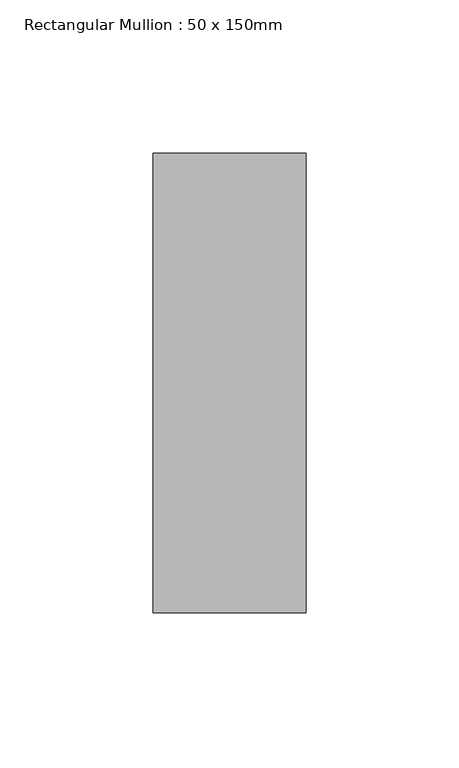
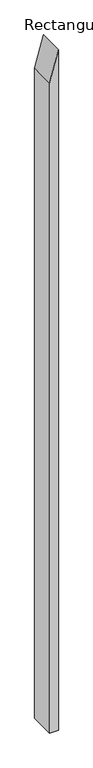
"""IFC4 building model written with IfcOpenShell, lengths in millimetres: member geometry, Rectangular Mullion : 50 x 150mm."""

from ifc_helpers import new_model, si_unit, frame, origin, place, context, project, spatial, polyline, outline, extrude, source, transform, mapped, element, save


def rectangular_mullion_50_x_150mm_12b7c3d9(model_context):
    return source(origin(), model_context, "Body", "SweptSolid", [
        extrude(outline(polyline([(0.0, 0.0), (-186.6025406, -50.0), (-4164.6558932, -50.0), (-4164.6558932, 0.0), (0.0, 0.0)])), frame((0.0, -75.0, 0.0), z_axis=(0.0, 1.0, 0.0), x_axis=(0.0, 0.0, 1.0)), (0.0, 0.0, 1.0), 150.0),
    ])


if __name__ == "__main__":
    model = new_model("IFC4")
    model_context = context("Model", 3, world=origin())
    ifc_project = project(units=[si_unit("LENGTHUNIT", "METRE", prefix="MILLI")], contexts=[model_context])
    site = spatial("IfcSite", under=ifc_project)
    building = spatial("IfcBuilding", under=site)
    placement = place(None, origin())
    rectangular_mullion_50_x_150mm_shape = rectangular_mullion_50_x_150mm_12b7c3d9(model_context)
    element("IfcMember", 1, ObjectType="Rectangular Mullion : 50 x 150mm", at=placement, inside=building, context=model_context, shape_type="MappedRepresentation", body=[
        mapped(rectangular_mullion_50_x_150mm_shape, transform((0.0, 0.0, 0.0), x_axis=(1.0, 0.0, 0.0), y_axis=(0.0, 1.0, 0.0), z_axis=(0.0, 0.0, 1.0))),
    ])
    save(model, "model.ifc")
